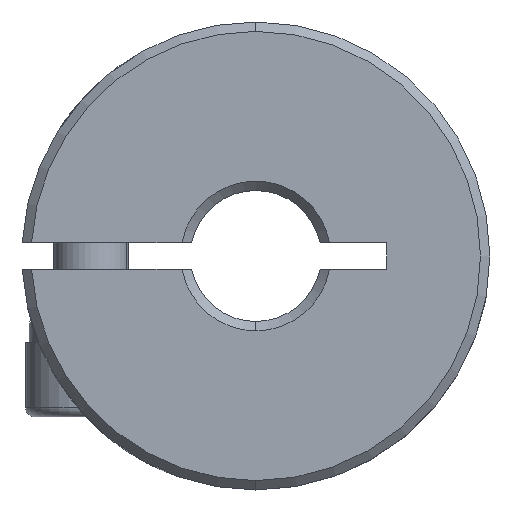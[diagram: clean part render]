
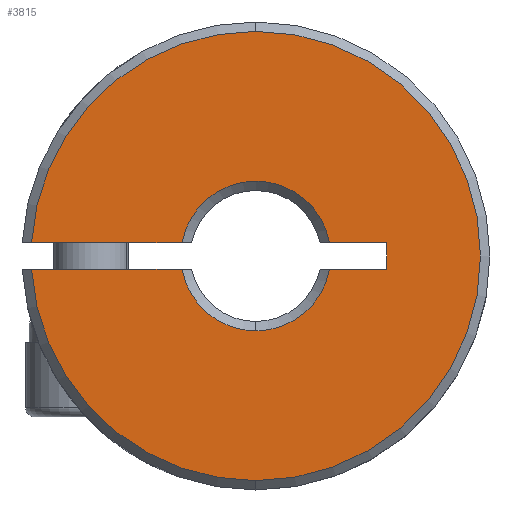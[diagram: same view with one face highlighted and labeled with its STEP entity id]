
A CAD part, front view. The second image highlights one B-rep face of the part: STEP entity #3815.
In plain terms, the highlighted planar face has unit normal (0, -1, 0).
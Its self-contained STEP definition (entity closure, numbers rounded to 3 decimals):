
#109 = AXIS2_PLACEMENT_3D ( 'NONE', #5144, #4711, #3691 ) ;
#117 = CARTESIAN_POINT ( 'NONE',  ( 0., 0.25, -12. ) ) ;
#122 = CARTESIAN_POINT ( 'NONE',  ( 0., 0.25, 0. ) ) ;
#206 = ORIENTED_EDGE ( 'NONE', *, *, #4886, .F. ) ;
#212 = CARTESIAN_POINT ( 'NONE',  ( 0., 0.25, 0. ) ) ;
#241 = AXIS2_PLACEMENT_3D ( 'NONE', #4276, #5250, #1931 ) ;
#249 = DIRECTION ( 'NONE',  ( 0., -1., 0. ) ) ;
#252 = AXIS2_PLACEMENT_3D ( 'NONE', #212, #249, #694 ) ;
#269 = CARTESIAN_POINT ( 'NONE',  ( 3.938, 0.25, 0.7 ) ) ;
#270 = CARTESIAN_POINT ( 'NONE',  ( 7., 0.25, 0.7 ) ) ;
#410 = CARTESIAN_POINT ( 'NONE',  ( 0., 0.25, 0. ) ) ;
#575 = CIRCLE ( 'NONE', #252, 12. ) ;
#637 = EDGE_CURVE ( 'NONE', #1368, #1795, #2970, .T. ) ;
#694 = DIRECTION ( 'NONE',  ( 0., 0., 1. ) ) ;
#722 = DIRECTION ( 'NONE',  ( 1., 0., 0. ) ) ;
#730 = AXIS2_PLACEMENT_3D ( 'NONE', #5996, #4899, #5493 ) ;
#757 = LINE ( 'NONE', #3881, #5892 ) ;
#772 = CARTESIAN_POINT ( 'NONE',  ( -12.75, 0.25, 0.7 ) ) ;
#808 = DIRECTION ( 'NONE',  ( -1., 0., 0. ) ) ;
#1109 = CARTESIAN_POINT ( 'NONE',  ( -11.98, 0.25, 0.7 ) ) ;
#1337 = CARTESIAN_POINT ( 'NONE',  ( 7., 0.25, -0.7 ) ) ;
#1368 = VERTEX_POINT ( 'NONE', #2613 ) ;
#1570 = CARTESIAN_POINT ( 'NONE',  ( -11.98, 0.25, -0.7 ) ) ;
#1622 = EDGE_CURVE ( 'NONE', #5918, #1866, #2612, .T. ) ;
#1795 = VERTEX_POINT ( 'NONE', #269 ) ;
#1853 = CARTESIAN_POINT ( 'NONE',  ( -3.938, 0.25, -0.7 ) ) ;
#1866 = VERTEX_POINT ( 'NONE', #1853 ) ;
#1909 = ORIENTED_EDGE ( 'NONE', *, *, #4210, .T. ) ;
#1931 = DIRECTION ( 'NONE',  ( 0., 0., 1. ) ) ;
#1966 = AXIS2_PLACEMENT_3D ( 'NONE', #410, #2727, #6084 ) ;
#2108 = ORIENTED_EDGE ( 'NONE', *, *, #2536, .F. ) ;
#2141 = LINE ( 'NONE', #270, #3108 ) ;
#2158 = EDGE_LOOP ( 'NONE', ( #3842, #5580, #5516, #206, #1909, #2446, #5904, #2108, #5589, #2535, #5666 ) ) ;
#2169 = EDGE_CURVE ( 'NONE', #5351, #5809, #757, .T. ) ;
#2173 = PLANE ( 'NONE',  #4587 ) ;
#2446 = ORIENTED_EDGE ( 'NONE', *, *, #5389, .T. ) ;
#2521 = EDGE_CURVE ( 'NONE', #5809, #3876, #2141, .T. ) ;
#2535 = ORIENTED_EDGE ( 'NONE', *, *, #4413, .F. ) ;
#2536 = EDGE_CURVE ( 'NONE', #1368, #5373, #5360, .T. ) ;
#2612 = CIRCLE ( 'NONE', #241, 4. ) ;
#2613 = CARTESIAN_POINT ( 'NONE',  ( -3.938, 0.25, 0.7 ) ) ;
#2632 = CARTESIAN_POINT ( 'NONE',  ( -500., 0.25, -13.609 ) ) ;
#2727 = DIRECTION ( 'NONE',  ( 0., -1., 0. ) ) ;
#2754 = CARTESIAN_POINT ( 'NONE',  ( 7., 0.25, 0.7 ) ) ;
#2808 = VECTOR ( 'NONE', #808, 1000. ) ;
#2878 = CARTESIAN_POINT ( 'NONE',  ( 0., 0.25, -4. ) ) ;
#2967 = VERTEX_POINT ( 'NONE', #1570 ) ;
#2970 = CIRCLE ( 'NONE', #730, 4. ) ;
#3108 = VECTOR ( 'NONE', #3594, 1000. ) ;
#3240 = LINE ( 'NONE', #3721, #3311 ) ;
#3311 = VECTOR ( 'NONE', #3658, 1000. ) ;
#3524 = DIRECTION ( 'NONE',  ( 1., 0., 0. ) ) ;
#3561 = VERTEX_POINT ( 'NONE', #117 ) ;
#3594 = DIRECTION ( 'NONE',  ( 0., 0., 1. ) ) ;
#3658 = DIRECTION ( 'NONE',  ( -1., 0., 0. ) ) ;
#3691 = DIRECTION ( 'NONE',  ( 0., 0., 1. ) ) ;
#3721 = CARTESIAN_POINT ( 'NONE',  ( -12.75, 0.25, 0.7 ) ) ;
#3813 = AXIS2_PLACEMENT_3D ( 'NONE', #122, #3921, #4888 ) ;
#3815 = ADVANCED_FACE ( 'NONE', ( #5126 ), #2173, .F. ) ;
#3842 = ORIENTED_EDGE ( 'NONE', *, *, #2169, .F. ) ;
#3845 = EDGE_CURVE ( 'NONE', #5962, #5373, #5353, .T. ) ;
#3876 = VERTEX_POINT ( 'NONE', #2754 ) ;
#3881 = CARTESIAN_POINT ( 'NONE',  ( -12.75, 0.25, -0.7 ) ) ;
#3921 = DIRECTION ( 'NONE',  ( 0., -1., 0. ) ) ;
#3967 = CARTESIAN_POINT ( 'NONE',  ( -12.75, 0.25, -0.7 ) ) ;
#4173 = DIRECTION ( 'NONE',  ( 0., 1., 0. ) ) ;
#4210 = EDGE_CURVE ( 'NONE', #2967, #3561, #575, .T. ) ;
#4276 = CARTESIAN_POINT ( 'NONE',  ( 0., 0.25, 0. ) ) ;
#4413 = EDGE_CURVE ( 'NONE', #3876, #1795, #3240, .T. ) ;
#4587 = AXIS2_PLACEMENT_3D ( 'NONE', #2632, #4173, #6068 ) ;
#4711 = DIRECTION ( 'NONE',  ( 0., 1., 0. ) ) ;
#4886 = EDGE_CURVE ( 'NONE', #2967, #1866, #5260, .T. ) ;
#4888 = DIRECTION ( 'NONE',  ( 0., 0., 1. ) ) ;
#4899 = DIRECTION ( 'NONE',  ( 0., 1., 0. ) ) ;
#5126 = FACE_OUTER_BOUND ( 'NONE', #2158, .T. ) ;
#5144 = CARTESIAN_POINT ( 'NONE',  ( 0., 0.25, 0. ) ) ;
#5177 = CIRCLE ( 'NONE', #109, 4. ) ;
#5180 = CIRCLE ( 'NONE', #3813, 12. ) ;
#5250 = DIRECTION ( 'NONE',  ( 0., 1., 0. ) ) ;
#5260 = LINE ( 'NONE', #3967, #5417 ) ;
#5351 = VERTEX_POINT ( 'NONE', #5699 ) ;
#5353 = CIRCLE ( 'NONE', #1966, 12. ) ;
#5360 = LINE ( 'NONE', #772, #2808 ) ;
#5373 = VERTEX_POINT ( 'NONE', #1109 ) ;
#5389 = EDGE_CURVE ( 'NONE', #3561, #5962, #5180, .T. ) ;
#5417 = VECTOR ( 'NONE', #722, 1000. ) ;
#5493 = DIRECTION ( 'NONE',  ( 0., 0., 1. ) ) ;
#5516 = ORIENTED_EDGE ( 'NONE', *, *, #1622, .T. ) ;
#5580 = ORIENTED_EDGE ( 'NONE', *, *, #5705, .T. ) ;
#5589 = ORIENTED_EDGE ( 'NONE', *, *, #637, .T. ) ;
#5666 = ORIENTED_EDGE ( 'NONE', *, *, #2521, .F. ) ;
#5699 = CARTESIAN_POINT ( 'NONE',  ( 3.938, 0.25, -0.7 ) ) ;
#5705 = EDGE_CURVE ( 'NONE', #5351, #5918, #5177, .T. ) ;
#5809 = VERTEX_POINT ( 'NONE', #1337 ) ;
#5892 = VECTOR ( 'NONE', #3524, 1000. ) ;
#5904 = ORIENTED_EDGE ( 'NONE', *, *, #3845, .T. ) ;
#5918 = VERTEX_POINT ( 'NONE', #2878 ) ;
#5962 = VERTEX_POINT ( 'NONE', #6076 ) ;
#5996 = CARTESIAN_POINT ( 'NONE',  ( 0., 0.25, 0. ) ) ;
#6068 = DIRECTION ( 'NONE',  ( 0., 0., 1. ) ) ;
#6076 = CARTESIAN_POINT ( 'NONE',  ( 0., 0.25, 12. ) ) ;
#6084 = DIRECTION ( 'NONE',  ( 0., 0., 1. ) ) ;
